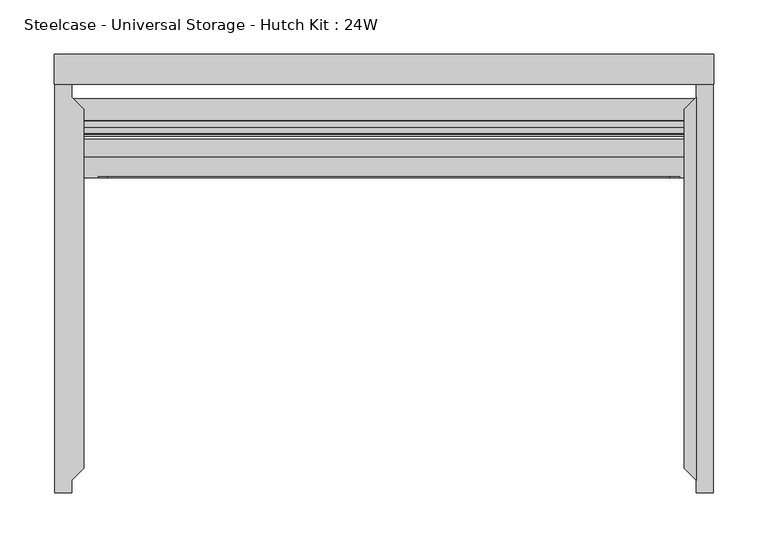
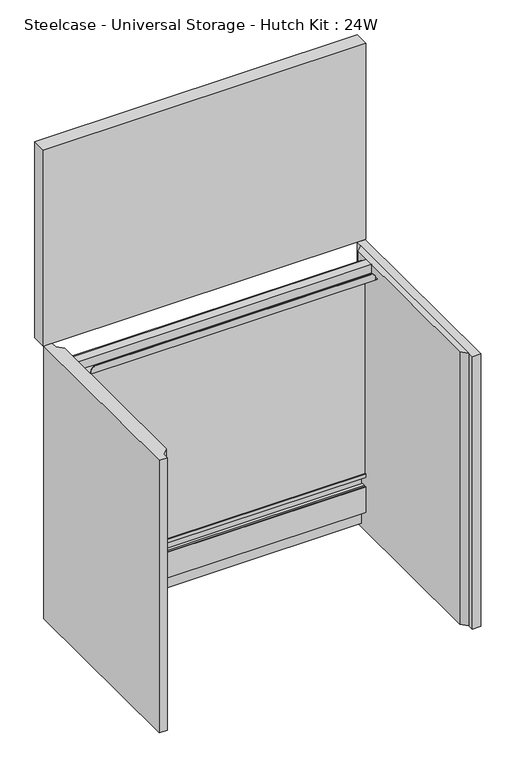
"""IFC4 building model written with IfcOpenShell, lengths in millimetres: furniture geometry, Steelcase - Universal Storage - Hutch Kit : 24W."""

import ifcopenshell
import ifcopenshell.guid

model = None  # the IFC model being written
_history = None  # IfcOwnerHistory: only IFC2X3 demands one
_inside = {}  # id of a spatial element -> (the spatial element, [elements in it])
_under = {}  # id of a project, library or spatial element -> (it, [spatial elements below it])
_declared = {}  # id of a project -> (the project, [libraries it declares])
_typed = {}  # id of a type object -> (the type object, [elements of that type])
_made_of = {}  # id of a material, layer set ... -> (it, [elements and type objects made of it])


def new_model(schema):
    """Start an empty IFC model of exactly this schema.

    Asked for "IFC4X3", IfcOpenShell would pick the latest addendum, in which some entities
    have other attributes; the version numbers below select the first issue.
    IFC2X3 requires an IfcOwnerHistory on every rooted entity: one is made here for all.
    """
    global model, _history
    if schema == "IFC4X3":
        model = ifcopenshell.file(schema_version=(4, 3, 0, 0))
    else:
        model = ifcopenshell.file(schema=schema)
    _inside.clear()
    _under.clear()
    _declared.clear()
    _typed.clear()
    _made_of.clear()
    _history = None
    if model.schema == "IFC2X3":
        org = make("IfcOrganization", Name="unknown")
        user = make(
            "IfcPersonAndOrganization",
            ThePerson=make("IfcPerson", FamilyName="unknown"),
            TheOrganization=org,
        )
        app = make(
            "IfcApplication",
            ApplicationDeveloper=org,
            Version="unknown",
            ApplicationFullName="unknown",
            ApplicationIdentifier="unknown",
        )
        _history = make(
            "IfcOwnerHistory",
            OwningUser=user,
            OwningApplication=app,
            ChangeAction="ADDED",
            CreationDate=0,
        )
    return model


def make(cls, **values):
    """One entity of the class cls with the attributes given. An attribute that is None is left unset."""
    return model.create_entity(
        cls, **{name: value for name, value in values.items() if value is not None}
    )


def rooted(cls, **values):
    """An entity with a GlobalId (a new one), such as an element, a storey or a relation."""
    return make(cls, GlobalId=ifcopenshell.guid.new(), OwnerHistory=_history, **values)


def si_unit(unit_type, name, prefix=None):
    """IfcSIUnit, for example si_unit("LENGTHUNIT", "METRE", prefix="MILLI")."""
    return make("IfcSIUnit", UnitType=unit_type, Prefix=prefix, Name=name)


def assignment(units):
    """IfcUnitAssignment: the units of a project."""
    return None if units is None else make("IfcUnitAssignment", Units=units)


def point(xyz):
    """IfcCartesianPoint."""
    return None if xyz is None else make("IfcCartesianPoint", Coordinates=xyz)


def direction(xyz):
    """IfcDirection."""
    return None if xyz is None else make("IfcDirection", DirectionRatios=xyz)


def frame(location, z_axis=None, x_axis=None):
    """IfcAxis2Placement3D, a coordinate frame: its origin and axes. An axis left out is left unset."""
    return make(
        "IfcAxis2Placement3D",
        Location=point(location),
        Axis=direction(z_axis),
        RefDirection=direction(x_axis),
    )


def origin():
    """The frame at (0, 0, 0) with its axes left unset."""
    return frame((0.0, 0.0, 0.0))


def place(relative_to, where):
    """IfcLocalPlacement: puts the frame where relative to a parent placement (None: the world)."""
    return make(
        "IfcLocalPlacement", PlacementRelTo=relative_to, RelativePlacement=where
    )


def context(
    kind, dimensions, precision=None, world=None, true_north=None, identifier=None
):
    """IfcGeometricRepresentationContext, for example the 3D "Model" context."""
    return make(
        "IfcGeometricRepresentationContext",
        ContextIdentifier=identifier,
        ContextType=kind,
        CoordinateSpaceDimension=dimensions,
        Precision=precision,
        WorldCoordinateSystem=world,
        TrueNorth=true_north,
    )


def project(units=None, contexts=None):
    """IfcProject with its units and contexts."""
    return rooted(
        "IfcProject",
        Name="project",
        RepresentationContexts=contexts,
        UnitsInContext=assignment(units),
    )


def spatial(cls, under=None, at=None, **own):
    """A site, building, storey or space (cls), placed at a placement, below another one or the project."""
    s = rooted(cls, ObjectPlacement=at, **own)
    if under is not None:
        _under.setdefault(under.id(), (under, []))[1].append(s)
    return s


def polyline(points):
    """IfcPolyline through the points."""
    return make("IfcPolyline", Points=[point(p) for p in points])


def circle_curve(where, radius):
    """IfcCircle in the frame where."""
    return make("IfcCircle", Position=where, Radius=radius)


def outline(outer, holes=None, kind="AREA"):
    """IfcArbitraryClosedProfileDef: a profile drawn as a closed curve; with holes, ...WithVoids."""
    if holes is None:
        return make("IfcArbitraryClosedProfileDef", ProfileType=kind, OuterCurve=outer)
    return make(
        "IfcArbitraryProfileDefWithVoids",
        ProfileType=kind,
        OuterCurve=outer,
        InnerCurves=holes,
    )


def extrude(swept, where, along, depth):
    """IfcExtrudedAreaSolid: the profile swept, set in the frame where, extruded along a direction by depth."""
    return make(
        "IfcExtrudedAreaSolid",
        SweptArea=swept,
        Position=where,
        ExtrudedDirection=direction(along),
        Depth=depth,
    )


def faces_of(points, faces, orient=None, outer=None):
    """IfcFace entities. A face is a list of loops; a loop is a list of indices into points, from 0.

    orient and outer hold one flag for each loop. By default every Orientation is true, the
    first loop of a face is its IfcFaceOuterBound and the others are IfcFaceBound.
    """
    made = []
    for i, loops in enumerate(faces):
        bounds = []
        for j, loop in enumerate(loops):
            is_outer = j == 0 if outer is None else outer[i][j]
            bounds.append(
                make(
                    "IfcFaceOuterBound" if is_outer else "IfcFaceBound",
                    Bound=make("IfcPolyLoop", Polygon=[points[k] for k in loop]),
                    Orientation=True if orient is None else orient[i][j],
                )
            )
        made.append(make("IfcFace", Bounds=bounds))
    return made


def faceted_brep(points, faces, orient=None, outer=None, voids=None):
    """IfcFacetedBrep: a solid bounded by flat faces; with voids (closed shells), ...WithVoids."""
    shared = [point(p) for p in points]
    hull = make("IfcClosedShell", CfsFaces=faces_of(shared, faces, orient, outer))
    if voids is None:
        return make("IfcFacetedBrep", Outer=hull)
    return make(
        "IfcFacetedBrepWithVoids",
        Outer=hull,
        Voids=[
            make(cls, CfsFaces=faces_of(shared, fs, o, b)) for cls, fs, o, b in voids
        ],
    )


def shape(context_of_items, identifier, shape_type, items):
    """IfcShapeRepresentation: the items that make up one representation, for example the "Body"."""
    return make(
        "IfcShapeRepresentation",
        ContextOfItems=context_of_items,
        RepresentationIdentifier=identifier,
        RepresentationType=shape_type,
        Items=items,
    )


def source(mapping_origin, context_of_items, identifier, shape_type, items):
    """IfcRepresentationMap: a shape defined once, which mapped items show again and again."""
    return make(
        "IfcRepresentationMap",
        MappingOrigin=mapping_origin,
        MappedRepresentation=shape(context_of_items, identifier, shape_type, items),
    )


def transform(
    local_origin,
    x_axis=None,
    y_axis=None,
    z_axis=None,
    scale=None,
    scale2=None,
    scale3=None,
    uniform=True,
):
    """IfcCartesianTransformationOperator3D, or its non-uniform kind. x_axis, y_axis, z_axis: its Axis1, 2, 3."""
    if uniform:
        return make(
            "IfcCartesianTransformationOperator3D",
            Axis1=direction(x_axis),
            Axis2=direction(y_axis),
            LocalOrigin=point(local_origin),
            Scale=scale,
            Axis3=direction(z_axis),
        )
    return make(
        "IfcCartesianTransformationOperator3DnonUniform",
        Axis1=direction(x_axis),
        Axis2=direction(y_axis),
        LocalOrigin=point(local_origin),
        Scale=scale,
        Axis3=direction(z_axis),
        Scale2=scale2,
        Scale3=scale3,
    )


def mapped(mapping_source, mapping_target):
    """IfcMappedItem: shows the shape of a source again, moved by a transform."""
    return make(
        "IfcMappedItem", MappingSource=mapping_source, MappingTarget=mapping_target
    )


def made_of(thing, what):
    """Note that an element or type object is made of a material, layer set ...; save() writes the relation."""
    if what is not None:
        _made_of.setdefault(what.id(), (what, []))[1].append(thing)
    return thing


def element(
    cls,
    number,
    at=None,
    inside=None,
    cuts=None,
    type_object=None,
    material=None,
    context=None,
    identifier="Body",
    shape_type=None,
    held_by="IfcProductDefinitionShape",
    body=None,
    shapes=None,
    **own,
):
    """One element of the class cls, such as IfcWall. Its Tag is "e" and its number.

    at: its placement. inside: the storey or other place that contains it. cuts: it is an
    opening in that element (IfcRelVoidsElement). A single representation is given by context,
    identifier, shape_type and body (its items); several are given by shapes. held_by: the class
    of the entity that holds the representations. save() writes the other relations.
    """
    e = rooted(cls, Tag="e%d" % number, ObjectPlacement=at, **own)
    if body is not None:
        shapes = [shape(context, identifier, shape_type, body)]
    if shapes is not None:
        e.Representation = make(held_by, Representations=shapes)
    if inside is not None:
        _inside.setdefault(inside.id(), (inside, []))[1].append(e)
    if cuts is not None:
        rooted(
            "IfcRelVoidsElement", RelatingBuildingElement=cuts, RelatedOpeningElement=e
        )
    if type_object is not None:
        _typed.setdefault(type_object.id(), (type_object, []))[1].append(e)
    return made_of(e, material)


def aggregate(whole, parts):
    """IfcRelAggregates: a whole, such as a stair, and the parts it consists of."""
    return rooted("IfcRelAggregates", RelatingObject=whole, RelatedObjects=parts)


def save(model, path):
    """Write the relations noted so far, then the file.

    IfcRelAggregates (storeys below a building ...), IfcRelContainedInSpatialStructure (elements
    in a storey), IfcRelDefinesByType, IfcRelAssociatesMaterial and IfcRelDeclares: one each for
    every whole, place, type object, material and project.
    """
    for whole, parts in _under.values():
        aggregate(whole, parts)
    for where, things in _inside.values():
        rooted(
            "IfcRelContainedInSpatialStructure",
            RelatedElements=things,
            RelatingStructure=where,
        )
    for kind, things in _typed.values():
        rooted("IfcRelDefinesByType", RelatedObjects=things, RelatingType=kind)
    for what, things in _made_of.values():
        rooted("IfcRelAssociatesMaterial", RelatedObjects=things, RelatingMaterial=what)
    for by, libraries in _declared.values():
        rooted("IfcRelDeclares", RelatingContext=by, RelatedDefinitions=libraries)
    model.write(path)


def plane_surface(at):
    """IfcPlane: the flat surface through the origin of the frame at, square to its z axis."""
    return make("IfcPlane", Position=at)


def cylinder_surface(at, radius):
    """IfcCylindricalSurface: all points at the distance radius from the z axis of the frame at."""
    return make("IfcCylindricalSurface", Position=at, Radius=radius)


def advanced_brep(points, edges, surfaces, faces):
    """IfcAdvancedBrep: a solid bounded by faces that lie on surfaces and meet in shared edges.

    An edge is (start, end): straight between two places in points (the first is 0);
    or (start, end, curve); or (start, end, curve, False) where it runs against its curve.
    A face is (place in surfaces, loops), or (place, loops, False) where it looks against
    its surface's normal. A loop lists edges by number (the first is 1), with a minus sign
    where the edge is run from its end to its start. The first loop is the outer one.
    """
    corners = [point(p) for p in points]
    vertices = [make("IfcVertexPoint", VertexGeometry=c) for c in corners]
    made = []
    for start, end, *more in edges:
        made.append(
            make(
                "IfcEdgeCurve",
                EdgeStart=vertices[start],
                EdgeEnd=vertices[end],
                EdgeGeometry=more[0] if more else make("IfcPolyline", Points=[corners[start], corners[end]]),
                SameSense=more[1] if len(more) > 1 else True,
            )
        )
    hull = []
    for where, loops, *sense in faces:
        bounds = []
        for j, loop in enumerate(loops):
            ring = [make("IfcOrientedEdge", EdgeElement=made[abs(k) - 1], Orientation=k > 0) for k in loop]
            bounds.append(
                make(
                    "IfcFaceOuterBound" if j == 0 else "IfcFaceBound",
                    Bound=make("IfcEdgeLoop", EdgeList=ring),
                    Orientation=True,
                )
            )
        hull.append(make("IfcAdvancedFace", Bounds=bounds, FaceSurface=surfaces[where], SameSense=sense[0] if sense else True))
    return make("IfcAdvancedBrep", Outer=make("IfcClosedShell", CfsFaces=hull))


def steelcase_universal_storage_hutch_kit_24w_c91838b4(model_context):
    return source(origin(), model_context, "Body", "SolidModel", [
        extrude(outline(polyline([(593.4202, -39.6494001), (593.4202, -393.4459972), (582.422, -382.447795), (582.422, -50.6476006), (593.4202, -39.6494001)])), frame((0.0, 0.0, 723.9), z_axis=(0.0, 0.0, 1.0), x_axis=(1.0, 0.0, 0.0)), (0.0, 0.0, 1.0), 544.8554),
        extrude(outline(polyline([(593.4202, -27.9400006), (608.7872, -27.9400006), (608.7872, -405.1553842), (593.4202, -405.1553842), (593.4202, -27.9400006)])), frame((0.0, 0.0, 723.9), z_axis=(0.0, 0.0, 1.0), x_axis=(1.0, 0.0, 0.0)), (0.0, 0.0, 1.0), 544.8554),
        extrude(outline(polyline([(16.1798, -405.1553842), (0.8128, -405.1553842), (0.8128, -27.9400006), (16.1798, -27.9400006), (16.1798, -39.6494001), (27.178, -50.6476006), (27.178, -382.447795), (16.1798, -393.4459972), (16.1798, -405.1553842)])), frame((0.0, 0.0, 723.9), z_axis=(0.0, 0.0, 1.0), x_axis=(1.0, 0.0, 0.0)), (0.0, 0.0, 1.0), 544.8554),
        advanced_brep(
        [(582.422, -78.4097988, 1250.975386), (582.422, -78.4097988, 1268.7554), (582.422, -94.7420005, 1268.7554), (582.422, -94.7420005, 1251.8898651), (582.422, -114.2492006, 1251.8898651), (582.422, -114.2492006, 1250.975386), (582.422, -93.8275986, 1250.975386), (582.422, -93.8275986, 1267.8410717), (582.422, -79.3242007, 1267.8410717), (582.422, -79.3242007, 1250.975386), (27.178, -78.4097988, 1250.975386), (27.178, -79.3242007, 1250.975386), (27.178, -79.3242007, 1267.8410717), (27.178, -93.8275986, 1267.8410717), (27.178, -93.8275986, 1250.975386), (27.178, -114.2492006, 1250.975386), (27.178, -114.2492006, 1251.8898651), (27.178, -94.7420005, 1251.8898651), (27.178, -94.7420005, 1268.7554), (27.178, -78.4097988, 1268.7554), (40.5892014, -114.2492006, 1251.8898651), (40.5892014, -113.3348006, 1251.8898651), (577.8809148, -113.3348006, 1251.8898651), (577.8809148, -114.2492006, 1251.8898651), (577.8809148, -114.2492006, 1256.0554636), (568.9909148, -114.2492006, 1264.9454636), (49.4792014, -114.2492006, 1264.9454636), (40.5892014, -114.2492006, 1256.0554636), (40.5892014, -113.3348006, 1256.0554636), (49.4792014, -113.3348006, 1264.9454636), (568.9909148, -113.3348006, 1264.9454636), (577.8809148, -113.3348006, 1256.0554636)],
        [
            (0, 1),
            (1, 2),
            (2, 3),
            (3, 4),
            (4, 5),
            (5, 6),
            (6, 7),
            (7, 8),
            (8, 9),
            (9, 0),
            (10, 11),
            (11, 12),
            (12, 13),
            (13, 14),
            (14, 15),
            (15, 16),
            (16, 17),
            (17, 18),
            (18, 19),
            (19, 10),
            (0, 10),
            (19, 1),
            (18, 2),
            (17, 3),
            (16, 20),
            (20, 21),
            (21, 22),
            (22, 23),
            (23, 4),
            (23, 24),
            (24, 25, circle_curve(frame((568.9909148, -114.2492006, 1256.0554636), z_axis=(0.0, -1.0, 0.0), x_axis=(1.0, 0.0, 0.0)), 8.89)),
            (25, 26),
            (26, 27, circle_curve(frame((49.4792014, -114.2492006, 1256.0554636), z_axis=(0.0, -1.0, 0.0), x_axis=(1.0, 0.0, 0.0)), 8.89)),
            (27, 20),
            (15, 5),
            (14, 6),
            (13, 7),
            (12, 8),
            (11, 9),
            (28, 29, circle_curve(frame((49.4792014, -113.3348006, 1256.0554636), z_axis=(0.0, 1.0, 0.0), x_axis=(1.0, 0.0, 0.0)), 8.89)),
            (29, 30),
            (30, 31, circle_curve(frame((568.9909148, -113.3348006, 1256.0554636), z_axis=(0.0, 1.0, 0.0), x_axis=(1.0, 0.0, 0.0)), 8.89)),
            (31, 22),
            (21, 28),
            (27, 28),
            (31, 24),
            (30, 25),
            (29, 26),
        ],
        [
            plane_surface(frame((582.422, -78.4097988, 1268.7554), z_axis=(1.0, 0.0, 0.0), x_axis=(0.0, 0.0, 1.0))),
            plane_surface(frame((27.178, -78.4097988, 1268.7554), z_axis=(-1.0, 0.0, 0.0), x_axis=(0.0, 0.0, -1.0))),
            plane_surface(frame((582.422, -78.4097988, 1250.975386), z_axis=(0.0, 1.0, 0.0), x_axis=(-1.0, 0.0, 0.0))),
            plane_surface(frame((582.422, -78.4097988, 1268.7554), z_axis=(0.0, 0.0, 1.0), x_axis=(-1.0, 0.0, 0.0))),
            plane_surface(frame((582.422, -94.7420005, 1268.7554), z_axis=(0.0, -1.0, 0.0), x_axis=(-1.0, 0.0, 0.0))),
            plane_surface(frame((582.422, -94.7420005, 1251.8898651), z_axis=(0.0, 0.0, 1.0), x_axis=(-1.0, 0.0, 0.0))),
            plane_surface(frame((582.422, -114.2492006, 1251.8898651), z_axis=(0.0, -1.0, 0.0), x_axis=(-1.0, 0.0, 0.0))),
            plane_surface(frame((582.422, -114.2492006, 1250.975386), z_axis=(0.0, 0.0, -1.0), x_axis=(-1.0, 0.0, 0.0))),
            plane_surface(frame((582.422, -93.8275986, 1250.975386), z_axis=(0.0, 1.0, 0.0), x_axis=(-1.0, 0.0, 0.0))),
            plane_surface(frame((582.422, -93.8275986, 1267.8410717), z_axis=(0.0, 0.0, -1.0), x_axis=(-1.0, 0.0, 0.0))),
            plane_surface(frame((582.422, -79.3242007, 1267.8410717), z_axis=(0.0, -1.0, 0.0), x_axis=(-1.0, 0.0, 0.0))),
            plane_surface(frame((582.422, -79.3242007, 1250.975386), z_axis=(0.0, 0.0, -1.0), x_axis=(-1.0, 0.0, 0.0))),
            plane_surface(frame((40.5892014, -113.3348006, 1251.8898651), z_axis=(0.0, 1.0, 0.0), x_axis=(-4.043514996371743e-12, 0.0, 1.0))),
            plane_surface(frame((40.5892014, -114.2492006, 1256.0554636), z_axis=(-1.0, 0.0, -4.043514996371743e-12), x_axis=(0.0, 1.0, 0.0))),
            plane_surface(frame((577.8809148, -114.2492006, 1251.8898651), z_axis=(1.0, 0.0, 0.0), x_axis=(0.0, 1.0, 0.0))),
            cylinder_surface(frame((568.9909148, -113.3348006, 1256.0554636), z_axis=(0.0, -1.0, 0.0), x_axis=(1.0, 0.0, 0.0)), 8.89),
            plane_surface(frame((568.9909148, -114.2492006, 1264.9454636), z_axis=(0.0, 0.0, 1.0), x_axis=(0.0, 1.0, 0.0))),
            cylinder_surface(frame((49.4792014, -113.3348006, 1256.0554636), z_axis=(0.0, -1.0, 0.0), x_axis=(1.0, 0.0, 0.0)), 8.89),
        ],
        [
            (0, [[1, 2, 3, 4, 5, 6, 7, 8, 9, 10]]),
            (1, [[11, 12, 13, 14, 15, 16, 17, 18, 19, 20]]),
            (2, [[-1, 21, -20, 22]]),
            (3, [[-2, -22, -19, 23]]),
            (4, [[-3, -23, -18, 24]]),
            (5, [[-4, -24, -17, 25, 26, 27, 28, 29]]),
            (6, [[-5, -29, 30, 31, 32, 33, 34, -25, -16, 35]]),
            (7, [[-6, -35, -15, 36]]),
            (8, [[-7, -36, -14, 37]]),
            (9, [[-8, -37, -13, 38]]),
            (10, [[-9, -38, -12, 39]]),
            (11, [[-10, -39, -11, -21]]),
            (12, [[40, 41, 42, 43, -27, 44]]),
            (13, [[-34, 45, -44, -26]]),
            (14, [[-30, -28, -43, 46]]),
            (15, [[-31, -46, -42, 47]]),
            (16, [[-32, -47, -41, 48]]),
            (17, [[-33, -48, -40, -45]]),
        ],
    ),
        faceted_brep([(582.422, -60.7822002, 848.0044), (582.422, -60.7822002, 833.8820223), (582.422, -74.2695991, 833.8820223), (582.422, -74.2695991, 839.215999), (582.422, -75.7936022, 839.215999), (582.422, -75.7936022, 831.8500242), (582.422, -60.7652681, 831.8500242), (582.422, -60.7652681, 808.7613899), (582.422, -64.6684001, 808.7613899), (582.422, -64.6684001, 812.8000242), (582.422, -70.7136025, 812.8000242), (582.422, -70.7136025, 806.4499758), (582.422, -74.2695991, 806.4499758), (582.422, -74.2695991, 812.8000242), (582.422, -75.7936022, 812.8000242), (582.422, -75.7936022, 762.0), (582.422, -60.7652681, 762.0), (582.422, -60.7652681, 730.377), (582.422, -50.6476006, 730.377), (582.422, -50.6476006, 848.0044), (27.178, -60.7822002, 848.0044), (27.178, -50.6476006, 848.0044), (27.178, -50.6476006, 730.377), (27.178, -60.7652681, 730.377), (27.178, -60.7652681, 762.0), (27.178, -75.7936022, 762.0), (27.178, -75.7936022, 812.8000242), (27.178, -74.2695991, 812.8000242), (27.178, -74.2695991, 806.4499758), (27.178, -70.7136025, 806.4499758), (27.178, -70.7136025, 812.8000242), (27.178, -64.6684001, 812.8000242), (27.178, -64.6684001, 808.7613899), (27.178, -60.7652681, 808.7613899), (27.178, -60.7652681, 831.8500242), (27.178, -75.7936022, 831.8500242), (27.178, -75.7936022, 839.215999), (27.178, -74.2695991, 839.215999), (27.178, -74.2695991, 833.8820223), (27.178, -60.7822002, 833.8820223), (16.1798, -50.6476006, 730.377), (16.1798, -41.1480006, 730.377), (593.4202, -41.1480006, 730.377), (593.4202, -50.6476006, 730.377), (593.4202, -50.6476006, 848.0044), (593.4202, -41.1480006, 848.0044), (16.1798, -41.1480006, 848.0044), (16.1798, -50.6476006, 848.0044)], [[[0, 1, 2, 3, 4, 5, 6, 7, 8, 9, 10, 11, 12, 13, 14, 15, 16, 17, 18, 19]], [[20, 21, 22, 23, 24, 25, 26, 27, 28, 29, 30, 31, 32, 33, 34, 35, 36, 37, 38, 39]], [[1, 0, 20, 39]], [[2, 1, 39, 38]], [[3, 2, 38, 37]], [[4, 3, 37, 36]], [[5, 4, 36, 35]], [[6, 5, 35, 34]], [[7, 6, 34, 33]], [[8, 7, 33, 32]], [[9, 8, 32, 31]], [[10, 9, 31, 30]], [[11, 10, 30, 29]], [[12, 11, 29, 28]], [[13, 12, 28, 27]], [[14, 13, 27, 26]], [[15, 14, 26, 25]], [[16, 15, 25, 24]], [[17, 16, 24, 23]], [[18, 17, 23, 22, 40, 41, 42, 43]], [[0, 19, 44, 45, 46, 47, 21, 20]], [[44, 43, 42, 45]], [[47, 46, 41, 40]], [[43, 44, 19, 18]], [[47, 40, 22, 21]], [[45, 42, 41, 46]]]),
        extrude(outline(polyline([(582.422, -61.9759999), (582.422, -67.5258996), (27.178, -67.5258996), (27.178, -61.9759999), (582.422, -61.9759999)])), frame((0.0, 0.0, 833.8820223), z_axis=(0.0, 0.0, 1.0), x_axis=(1.0, 0.0, 0.0)), (0.0, 0.0, 1.0), 423.4941359),
        extrude(outline(polyline([(582.422, -67.5258996), (582.422, -73.0618558), (27.178, -73.0618558), (27.178, -67.5258996), (582.422, -67.5258996)])), frame((0.0, 0.0, 833.8820223), z_axis=(0.0, 0.0, 1.0), x_axis=(1.0, 0.0, 0.0)), (0.0, 0.0, 1.0), 423.4941359),
        extrude(outline(polyline([(609.6, 0.0), (609.6, -27.9400006), (0.0, -27.9400006), (0.0, 0.0), (609.6, 0.0)])), frame((0.0, 0.0, 1268.7554), z_axis=(0.0, 0.0, 1.0), x_axis=(1.0, 0.0, 0.0)), (0.0, 0.0, 1.0), 391.9220132),
    ])


if __name__ == "__main__":
    model = new_model("IFC4")
    model_context = context("Model", 3, world=origin())
    ifc_project = project(units=[si_unit("LENGTHUNIT", "METRE", prefix="MILLI")], contexts=[model_context])
    site = spatial("IfcSite", under=ifc_project)
    building = spatial("IfcBuilding", under=site)
    placement = place(None, origin())
    steelcase_universal_storage_hutch_kit_24w_shape = steelcase_universal_storage_hutch_kit_24w_c91838b4(model_context)
    element("IfcFurniture", 1, ObjectType="Steelcase - Universal Storage - Hutch Kit : 24W", at=placement, inside=building, context=model_context, shape_type="MappedRepresentation", body=[
        mapped(steelcase_universal_storage_hutch_kit_24w_shape, transform((0.0, 0.0, 0.0), x_axis=(1.0, 0.0, 0.0), y_axis=(0.0, 1.0, 0.0), z_axis=(0.0, 0.0, 1.0))),
    ])
    save(model, "model.ifc")
